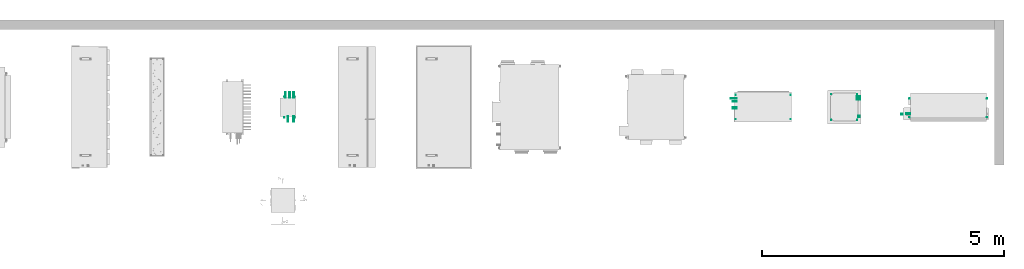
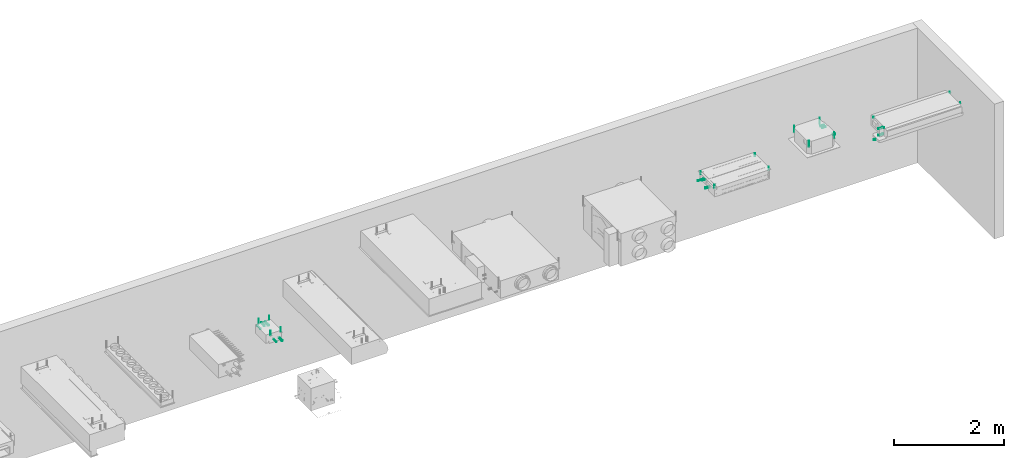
# One storey, part 3 of 5: 3 energy conversion devices, 1 flow fitting.
"""IFC2X3 building model written with IfcOpenShell, lengths in millimetres."""

from ifc_helpers import new_model, entity, si_unit, converted_unit, derived_unit, direction, frame, frame_2d, origin, origin_2d_with_axis, place, context, subcontext, project, spatial, circle, extrude, source, transform, mapped, material, type_object, type_shapes, element, save


model = new_model("IFC2X3")

# Units and contexts
model_context = context("Model", 3, precision=0.01, world=origin(), true_north=direction((6.12303176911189e-17, 1.0)))
body_context = subcontext(model_context, "Body", "Model", "MODEL_VIEW")
ifc_project = project(units=[si_unit("LENGTHUNIT", "METRE", prefix="MILLI"), si_unit("AREAUNIT", "SQUARE_METRE"), si_unit("VOLUMEUNIT", "CUBIC_METRE"), converted_unit("PLANEANGLEUNIT", "DEGREE", entity("IfcRatioMeasure", 0.0174532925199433), si_unit("PLANEANGLEUNIT", "RADIAN"), dimensions=[0, 0, 0, 0, 0, 0, 0]), si_unit("MASSUNIT", "GRAM", prefix="KILO"), derived_unit("MASSDENSITYUNIT", [(si_unit("MASSUNIT", "GRAM", prefix="KILO"), 1), (si_unit("LENGTHUNIT", "METRE"), -3)]), si_unit("TIMEUNIT", "SECOND"), si_unit("FREQUENCYUNIT", "HERTZ"), si_unit("THERMODYNAMICTEMPERATUREUNIT", "DEGREE_CELSIUS"), derived_unit("THERMALTRANSMITTANCEUNIT", [(si_unit("MASSUNIT", "GRAM", prefix="KILO"), 1), (si_unit("THERMODYNAMICTEMPERATUREUNIT", "KELVIN"), -1), (si_unit("TIMEUNIT", "SECOND"), -3)]), derived_unit("VOLUMETRICFLOWRATEUNIT", [(si_unit("LENGTHUNIT", "METRE"), 3), (si_unit("TIMEUNIT", "SECOND"), -1)]), si_unit("ELECTRICCURRENTUNIT", "AMPERE"), si_unit("ELECTRICVOLTAGEUNIT", "VOLT"), si_unit("POWERUNIT", "WATT"), si_unit("FORCEUNIT", "NEWTON", prefix="KILO"), si_unit("ILLUMINANCEUNIT", "LUX"), si_unit("LUMINOUSFLUXUNIT", "LUMEN"), si_unit("LUMINOUSINTENSITYUNIT", "CANDELA"), derived_unit("USERDEFINED", [(si_unit("MASSUNIT", "GRAM", prefix="KILO"), -1), (si_unit("LENGTHUNIT", "METRE"), -2), (si_unit("TIMEUNIT", "SECOND"), 3), (si_unit("LUMINOUSFLUXUNIT", "LUMEN"), 1)]), derived_unit("LINEARVELOCITYUNIT", [(si_unit("LENGTHUNIT", "METRE"), 1), (si_unit("TIMEUNIT", "SECOND"), -1)]), si_unit("PRESSUREUNIT", "PASCAL"), derived_unit("USERDEFINED", [(si_unit("LENGTHUNIT", "METRE"), -2), (si_unit("MASSUNIT", "GRAM", prefix="KILO"), 1), (si_unit("TIMEUNIT", "SECOND"), -2)])], contexts=[model_context])

# Site, building, storey
site_placement = place(None, origin())
site = spatial("IfcSite", under=ifc_project, at=site_placement, Name="Default", CompositionType="ELEMENT")
building_placement = place(site_placement, origin())
building = spatial("IfcBuilding", under=site, at=building_placement, CompositionType="ELEMENT")
storey_placement = place(building_placement, origin())
storey = spatial("IfcBuildingStorey", under=building, at=storey_placement, Name="Level 1", CompositionType="ELEMENT", Elevation=0.0)

# Flow fitting
ifc_material_1 = material(Name="RSen_x_rgb 255 255 255 T00 pure white_gen")
pipe_fitting_type = type_object("IfcPipeFittingType", Name="bs1q25a7v1b - individual branch selector_daikin_lxwxh 388x326x207 mm", PredefinedType="JUNCTION", material=ifc_material_1)
shared_shape_1 = source(origin(), body_context, "Body", "SweptSolid", [
    extrude(circle(Radius=11.1, at=frame_2d((-4.92090066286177e-28, -3.38395977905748e-14), x_axis=(1.0, 0.0))), frame((194.0, -115.0, 240.0), z_axis=(1.0, 0.0, 0.0), x_axis=(0.0, 0.0, -1.0)), (0.0, 0.0, 1.0), 108.999999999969),
    extrude(circle(Radius=4.75, at=frame_2d((-1.07644702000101e-28, -7.40241201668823e-15), x_axis=(1.0, 0.0))), frame((194.0, 5.0, 220.0), z_axis=(1.0, 0.0, 0.0), x_axis=(0.0, 0.0, -1.0)), (0.0, 0.0, 1.0), 108.999999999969),
    extrude(circle(Radius=4.75, at=frame_2d((-4.50804886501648e-28, -2.53796983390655e-14), x_axis=(1.0, 0.0))), frame((-303.0, 49.0, 220.0), z_axis=(1.0, 1.74532925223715e-05, 0.0), x_axis=(0.0, 0.0, -1.0)), (0.0, 0.0, 1.0), 108.999999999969),
    extrude(circle(Radius=11.1, at=frame_2d((-9.01609773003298e-28, -5.07593966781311e-14), x_axis=(1.0, 0.0))), frame((-303.0, -116.0, 195.0), z_axis=(1.0, 1.74532925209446e-05, 0.0), x_axis=(0.0, 0.0, -1.0)), (0.0, 0.0, 1.0), 108.999999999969),
    extrude(circle(Radius=9.55, at=frame_2d((-7.51341477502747e-28, -4.22994972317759e-14), x_axis=(1.0, 0.0))), frame((-303.0, -31.0, 175.0), z_axis=(1.0, 1.745329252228e-05, 0.0), x_axis=(0.0, 0.0, -1.0)), (0.0, 0.0, 1.0), 108.999999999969),
    extrude(circle(Radius=1.5, at=origin_2d_with_axis()), frame((213.998516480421, 77.7000001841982, -0.00373499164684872)), (0.0, 0.0, 1.0), 105.0),
    extrude(circle(Radius=1.5, at=frame_2d((-1.4566239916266e-23, -1.69197988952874e-14), x_axis=(1.0, 0.0))), frame((-214.001483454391, 77.6999998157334, 0.00373501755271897)), (0.0, 0.0, 1.0), 105.0),
    extrude(circle(Radius=1.5, at=origin_2d_with_axis()), frame((213.998516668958, -141.299999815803, -0.00373499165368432)), (0.0, 0.0, 1.0), 105.0),
    extrude(circle(Radius=1.5, at=frame_2d((-1.4566239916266e-23, -1.69197988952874e-14), x_axis=(1.0, 0.0))), frame((-214.001483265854, -141.300000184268, 0.00373501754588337)), (0.0, 0.0, 1.0), 105.0),
])
type_shapes(pipe_fitting_type, [shared_shape_1])
flow_fitting_placement = place(storey_placement, frame((10290.1283142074, -15720.0150037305, 2500.0), z_axis=(0.0, 0.0, -1.0), x_axis=(0.0, -1.0, 0.0)))
element("IfcFlowFitting", 1, at=flow_fitting_placement, inside=storey, type_object=pipe_fitting_type, material=ifc_material_1, Name="RSen_55_ME_FB_individual branch - bs box_daikin:bs1q25a7v1b - individual branch selector_daikin_lxwxh 388x326x207 mm", ObjectType="bs1q25a7v1b - individual branch selector_daikin_lxwxh 388x326x207 mm", context=body_context, shape_type="MappedRepresentation", body=[
    mapped(shared_shape_1, transform((0.0, 0.0, 0.0), scale=1.0)),
])

# Energy conversion devices
ifc_material_2 = material(Name="RSen_x_rgb 199 235 223 T00 galvanised steel plate_gen")
coil_type_1 = type_object("IfcCoilType", Name="fwe10c5tv1b - concealed ceiling unit with low esp_daikin_lxwxh 590x1780x247 mm", PredefinedType="WATERHEATINGCOIL", material=ifc_material_2)
shared_shape_2 = source(origin(), body_context, "Body", "SweptSolid", [
    extrude(circle(Radius=10.0, at=origin_2d_with_axis()), frame((147.0, 890.0, 258.500000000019), z_axis=(0.0, 1.0, 0.0), x_axis=(0.0, 0.0, -1.0)), (0.0, 0.0, 1.0), 34.999999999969),
    extrude(circle(Radius=1.5, at=origin_2d_with_axis()), frame((-176.499999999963, -849.500000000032, 0.0), z_axis=(0.0, 0.0, 1.0), x_axis=(-1.0, 0.0, 0.0)), (0.0, 0.0, 1.0), 20.0),
    extrude(circle(Radius=1.5, at=origin_2d_with_axis()), frame((210.500000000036, -849.500000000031, 0.0), z_axis=(0.0, 0.0, 1.0), x_axis=(-1.0, 0.0, 0.0)), (0.0, 0.0, 1.0), 20.0),
    extrude(circle(Radius=1.5, at=origin_2d_with_axis()), frame((-176.499999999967, 751.499999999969, 0.0), z_axis=(0.0, 0.0, 1.0), x_axis=(-1.0, 0.0, 0.0)), (0.0, 0.0, 1.0), 20.0),
    extrude(circle(Radius=1.5, at=origin_2d_with_axis()), frame((210.500000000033, 751.49999999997, 0.0), z_axis=(0.0, 0.0, 1.0), x_axis=(-1.0, 0.0, 0.0)), (0.0, 0.0, 1.0), 20.0),
    extrude(circle(Radius=10.0, at=frame_2d((4.48664982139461e-29, -1.69197988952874e-14), x_axis=(1.0, 0.0))), frame((137.500000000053, 735.0, 54.5000000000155), z_axis=(0.0, 1.0, 0.0), x_axis=(0.0, 0.0, -1.0)), (0.0, 0.0, 1.0), 89.999999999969),
    extrude(circle(Radius=10.0, at=origin_2d_with_axis()), frame((137.500000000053, 735.0, 197.500000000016), z_axis=(0.0, 1.0, 0.0), x_axis=(0.0, 0.0, -1.0)), (0.0, 0.0, 1.0), 89.999999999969),
])
type_shapes(coil_type_1, [shared_shape_2])
energy_conversion_device_1_placement = place(storey_placement, frame((23883.3783625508, -15720.0150037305, 2500.0), z_axis=(0.0, 0.0, -1.0), x_axis=(0.0, -1.0, 0.0)))
element("IfcEnergyConversionDevice", 2, at=energy_conversion_device_1_placement, inside=storey, type_object=coil_type_1, material=ifc_material_2, Name="RSen_55_ME_FB_fan coils - concealed ceiling-flexi type - 2 pipes_daikin:fwe10c5tv1b - concealed ceiling unit with low esp_daikin_lxwxh 590x1780x247 mm", ObjectType="fwe10c5tv1b - concealed ceiling unit with low esp_daikin_lxwxh 590x1780x247 mm", context=body_context, shape_type="MappedRepresentation", body=[
    mapped(shared_shape_2, transform((0.0, 0.0, 0.0), scale=1.0)),
])
coil_type_2 = type_object("IfcCoilType", Name="fwf05b5tv1b - 4-way blow ceiling mounted cassette_daikin_lxwxh 700x700x315 mm", PredefinedType="WATERHEATINGCOIL", material=ifc_material_1)
shared_shape_3 = source(origin(), body_context, "Body", "SweptSolid", [
    extrude(circle(Radius=13.0, at=frame_2d((-1.64438192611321e-28, -6.76791955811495e-14), x_axis=(1.0, 0.0))), frame((465.095272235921, 5.50000000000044, 102.0), z_axis=(0.0, 1.0, 0.0), x_axis=(0.0, 0.0, -1.0)), (0.0, 0.0, 1.0), 32.999999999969),
    extrude(circle(Radius=1.5, at=origin_2d_with_axis()), frame((3.09527223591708, 59.4999999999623, 0.0), z_axis=(0.0, 0.0, 1.0), x_axis=(-1.0, 0.0, 0.0)), (0.0, 0.0, 1.0), 135.0),
    extrude(circle(Radius=1.5, at=origin_2d_with_axis()), frame((536.095272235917, 59.4999999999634, 0.0), z_axis=(0.0, 0.0, 1.0), x_axis=(-1.0, 0.0, 0.0)), (0.0, 0.0, 1.0), 135.0),
    extrude(circle(Radius=1.5, at=origin_2d_with_axis()), frame((3.095272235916, 592.499999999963, 0.0), z_axis=(0.0, 0.0, 1.0), x_axis=(-1.0, 0.0, 0.0)), (0.0, 0.0, 1.0), 135.0),
    extrude(circle(Radius=1.5, at=origin_2d_with_axis()), frame((536.095272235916, 592.499999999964, 0.0), z_axis=(0.0, 0.0, 1.0), x_axis=(-1.0, 0.0, 0.0)), (0.0, 0.0, 1.0), 135.0),
    extrude(circle(Radius=10.0, at=frame_2d((-8.22190963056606e-29, -3.38395977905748e-14), x_axis=(1.0, 0.0))), frame((108.595272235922, 0.0, 158.0), z_axis=(0.0, 1.0, 0.0), x_axis=(0.0, 0.0, -1.0)), (0.0, 0.0, 1.0), 64.999999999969),
    extrude(circle(Radius=10.0, at=frame_2d((-8.22190963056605e-29, -3.38395977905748e-14), x_axis=(1.0, 0.0))), frame((52.5952722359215, 0.0, 158.0), z_axis=(0.0, 1.0, 0.0), x_axis=(0.0, 0.0, -1.0)), (0.0, 0.0, 1.0), 64.999999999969),
])
type_shapes(coil_type_2, [shared_shape_3])
energy_conversion_device_2_placement = place(storey_placement, frame((22109.3783625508, -15450.4197314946, 2805.0), z_axis=(0.0, 0.0, -1.0), x_axis=(0.0, -1.0, 0.0)))
element("IfcEnergyConversionDevice", 3, at=energy_conversion_device_2_placement, inside=storey, type_object=coil_type_2, material=ifc_material_1, Name="RSen_55_ME_FB_fan coils - exposed cassette - 2 pipes - fresh air intake_daikin:fwf05b5tv1b - 4-way blow ceiling mounted cassette_daikin_lxwxh 700x700x315 mm", ObjectType="fwf05b5tv1b - 4-way blow ceiling mounted cassette_daikin_lxwxh 700x700x315 mm", context=body_context, shape_type="MappedRepresentation", body=[
    mapped(shared_shape_3, transform((0.0, 0.0, 0.0), scale=1.0)),
])
unitary_equipment_type = type_object("IfcUnitaryEquipmentType", Name="fdxm60f3v1b9 - slim concealed ceiling unit_daikin_lxwxh 620x1150x200 mm", PredefinedType="AIRCONDITIONINGUNIT", material=ifc_material_1)
shared_shape_4 = source(origin(), body_context, "Body", "SweptSolid", [
    extrude(circle(Radius=13.0, at=frame_2d((3.71658823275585e-29, -2.11497486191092e-14), x_axis=(1.0, 0.0))), frame((20.0, 522.0, 190.0), z_axis=(0.0, 1.0, 0.0), x_axis=(0.0, 0.0, -1.0)), (0.0, 0.0, 1.0), 82.999999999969),
    extrude(circle(Radius=3.175, at=frame_2d((2.81852485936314e-29, -1.69197988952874e-14), x_axis=(1.0, 0.0))), frame((-117.0, 522.0, 110.0), z_axis=(0.0, 1.0, 0.0), x_axis=(0.0, 0.0, -1.0)), (0.0, 0.0, 1.0), 82.999999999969),
    extrude(circle(Radius=6.35, at=origin_2d_with_axis()), frame((-180.0, 522.0, 133.0), z_axis=(0.0, 1.0, 0.0), x_axis=(0.0, 0.0, -1.0)), (0.0, 0.0, 1.0), 122.999999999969),
    extrude(circle(Radius=1.5, at=origin_2d_with_axis()), frame((249.999650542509, 545.0, -0.00436332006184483)), (0.0, 0.0, 1.0), 60.0),
    extrude(circle(Radius=1.5, at=origin_2d_with_axis()), frame((-250.000349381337, 545.0, 0.00436332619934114)), (0.0, 0.0, 1.0), 60.0),
    extrude(circle(Radius=1.5, at=origin_2d_with_axis()), frame((249.999651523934, -595.0, -0.00436332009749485)), (0.0, 0.0, 1.0), 60.0),
    extrude(circle(Radius=1.5, at=origin_2d_with_axis()), frame((-250.000348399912, -595.0, 0.00436332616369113)), (0.0, 0.0, 1.0), 60.0),
])
type_shapes(unitary_equipment_type, [shared_shape_4])
energy_conversion_device_3_placement = place(storey_placement, frame((20083.3783625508, -15720.0150037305, 2500.0), z_axis=(0.0, 0.0, -1.0), x_axis=(0.0, -1.0, 0.0)))
element("IfcEnergyConversionDevice", 4, at=energy_conversion_device_3_placement, inside=storey, type_object=unitary_equipment_type, material=ifc_material_1, Name="RSen_55_ME_FB_indoor unit - sky air - concealed ceiling-floor_daikin:fdxm60f3v1b9 - slim concealed ceiling unit_daikin_lxwxh 620x1150x200 mm", ObjectType="fdxm60f3v1b9 - slim concealed ceiling unit_daikin_lxwxh 620x1150x200 mm", context=body_context, shape_type="MappedRepresentation", body=[
    mapped(shared_shape_4, transform((0.0, 0.0, 0.0), scale=1.0)),
])

save(model, "model.ifc")
